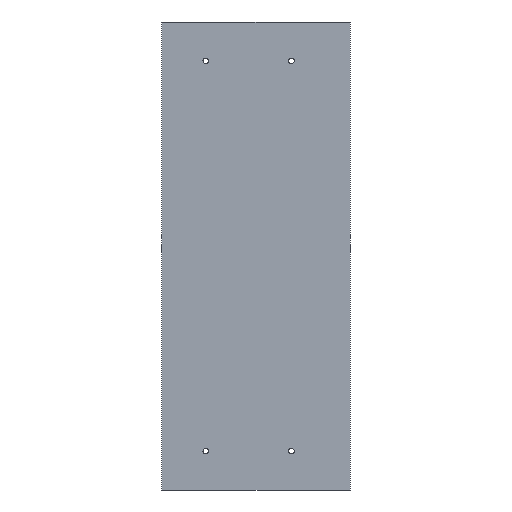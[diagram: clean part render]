
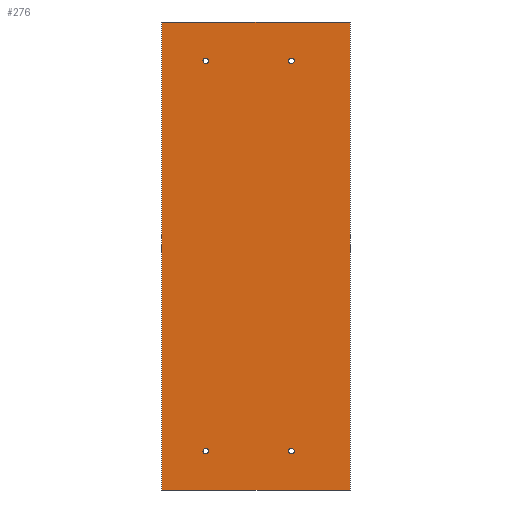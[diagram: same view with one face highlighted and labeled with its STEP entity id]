
A CAD part, front view. The second image highlights one B-rep face of the part: STEP entity #276.
In plain terms, the highlighted planar face has unit normal (0, -1, 0).
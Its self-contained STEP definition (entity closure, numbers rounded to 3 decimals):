
#19=FACE_BOUND('',#63,.T.);
#20=FACE_BOUND('',#64,.T.);
#21=FACE_BOUND('',#65,.T.);
#22=FACE_BOUND('',#66,.T.);
#30=PLANE('',#322);
#44=FACE_OUTER_BOUND('',#62,.T.);
#62=EDGE_LOOP('',(#245,#246,#247,#248));
#63=EDGE_LOOP('',(#249));
#64=EDGE_LOOP('',(#250));
#65=EDGE_LOOP('',(#251));
#66=EDGE_LOOP('',(#252));
#86=LINE('',#464,#110);
#89=LINE('',#469,#113);
#90=LINE('',#473,#114);
#91=LINE('',#474,#115);
#110=VECTOR('',#386,10.);
#113=VECTOR('',#391,10.);
#114=VECTOR('',#396,10.);
#115=VECTOR('',#397,10.);
#119=CIRCLE('',#302,2.459);
#122=CIRCLE('',#306,2.459);
#125=CIRCLE('',#310,2.459);
#128=CIRCLE('',#314,2.459);
#131=VERTEX_POINT('',#409);
#134=VERTEX_POINT('',#417);
#137=VERTEX_POINT('',#425);
#140=VERTEX_POINT('',#433);
#149=VERTEX_POINT('',#461);
#150=VERTEX_POINT('',#463);
#151=VERTEX_POINT('',#467);
#152=VERTEX_POINT('',#472);
#156=EDGE_CURVE('',#131,#131,#119,.T.);
#160=EDGE_CURVE('',#134,#134,#122,.T.);
#164=EDGE_CURVE('',#137,#137,#125,.T.);
#168=EDGE_CURVE('',#140,#140,#128,.T.);
#182=EDGE_CURVE('',#150,#149,#86,.T.);
#185=EDGE_CURVE('',#149,#151,#89,.T.);
#186=EDGE_CURVE('',#151,#152,#90,.T.);
#187=EDGE_CURVE('',#152,#150,#91,.T.);
#245=ORIENTED_EDGE('',*,*,#185,.T.);
#246=ORIENTED_EDGE('',*,*,#186,.T.);
#247=ORIENTED_EDGE('',*,*,#187,.T.);
#248=ORIENTED_EDGE('',*,*,#182,.T.);
#249=ORIENTED_EDGE('',*,*,#156,.T.);
#250=ORIENTED_EDGE('',*,*,#160,.T.);
#251=ORIENTED_EDGE('',*,*,#164,.T.);
#252=ORIENTED_EDGE('',*,*,#168,.T.);
#276=ADVANCED_FACE('',(#44,#19,#20,#21,#22),#30,.T.);
#302=AXIS2_PLACEMENT_3D('',#411,#334,#335);
#306=AXIS2_PLACEMENT_3D('',#419,#343,#344);
#310=AXIS2_PLACEMENT_3D('',#427,#352,#353);
#314=AXIS2_PLACEMENT_3D('',#435,#361,#362);
#322=AXIS2_PLACEMENT_3D('',#471,#394,#395);
#334=DIRECTION('center_axis',(0.,1.,0.));
#335=DIRECTION('ref_axis',(1.,0.,0.));
#343=DIRECTION('center_axis',(0.,1.,0.));
#344=DIRECTION('ref_axis',(1.,0.,0.));
#352=DIRECTION('center_axis',(0.,1.,0.));
#353=DIRECTION('ref_axis',(1.,0.,0.));
#361=DIRECTION('center_axis',(0.,1.,0.));
#362=DIRECTION('ref_axis',(1.,0.,0.));
#386=DIRECTION('',(-1.,0.,0.));
#391=DIRECTION('',(0.,0.,-1.));
#394=DIRECTION('center_axis',(0.,-1.,0.));
#395=DIRECTION('ref_axis',(0.,0.,-1.));
#396=DIRECTION('',(1.,0.,0.));
#397=DIRECTION('',(0.,0.,1.));
#409=CARTESIAN_POINT('',(28.541,-10.,171.));
#411=CARTESIAN_POINT('Origin',(31.,-10.,171.));
#417=CARTESIAN_POINT('',(28.541,-10.,-171.));
#419=CARTESIAN_POINT('Origin',(31.,-10.,-171.));
#425=CARTESIAN_POINT('',(-46.459,-10.,-171.));
#427=CARTESIAN_POINT('Origin',(-44.,-10.,-171.));
#433=CARTESIAN_POINT('',(-46.459,-10.,171.));
#435=CARTESIAN_POINT('Origin',(-44.,-10.,171.));
#461=CARTESIAN_POINT('',(-82.5,-10.,205.));
#463=CARTESIAN_POINT('',(82.5,-10.,205.));
#464=CARTESIAN_POINT('',(-82.5,-10.,205.));
#467=CARTESIAN_POINT('',(-82.5,-10.,-205.));
#469=CARTESIAN_POINT('',(-82.5,-10.,-205.));
#471=CARTESIAN_POINT('Origin',(0.,-10.,0.));
#472=CARTESIAN_POINT('',(82.5,-10.,-205.));
#473=CARTESIAN_POINT('',(82.5,-10.,-205.));
#474=CARTESIAN_POINT('',(82.5,-10.,205.));
